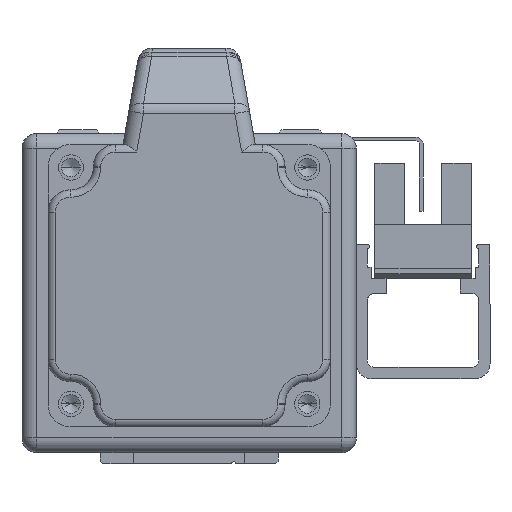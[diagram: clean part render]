
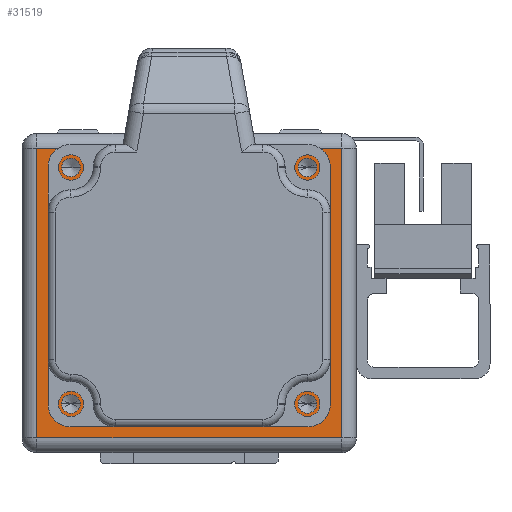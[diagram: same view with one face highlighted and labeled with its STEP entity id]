
A CAD part, left-side view. The second image highlights one B-rep face of the part: STEP entity #31519.
In plain terms, the highlighted planar face has unit normal (-1, 0, 0) as drawn and (0, 0, -1) by its records, which use the part's own axes.
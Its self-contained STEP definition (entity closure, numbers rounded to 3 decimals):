
#752 = DIRECTION ( 'NONE',  ( -1., 0., 0. ) ) ;
#785 = DIRECTION ( 'NONE',  ( 0., 0., -1. ) ) ;
#791 = CARTESIAN_POINT ( 'NONE',  ( 15.91, -14.91, 0. ) ) ;
#972 = VERTEX_POINT ( 'NONE', #24666 ) ;
#1001 = VERTEX_POINT ( 'NONE', #24303 ) ;
#1218 = DIRECTION ( 'NONE',  ( -1., 0., 0. ) ) ;
#1374 = DIRECTION ( 'NONE',  ( 0., 0., -1. ) ) ;
#1569 = CARTESIAN_POINT ( 'NONE',  ( 15.91, 16.91, 0. ) ) ;
#2149 = CARTESIAN_POINT ( 'NONE',  ( -17.16, 16.91, 0. ) ) ;
#2272 = VERTEX_POINT ( 'NONE', #13752 ) ;
#2422 = VERTEX_POINT ( 'NONE', #19946 ) ;
#2788 = VERTEX_POINT ( 'NONE', #14689 ) ;
#3261 = VERTEX_POINT ( 'NONE', #21715 ) ;
#3546 = EDGE_CURVE ( 'NONE', #972, #2788, #8075, .T. ) ;
#4017 = CIRCLE ( 'NONE', #15367, 1.25 ) ;
#4046 = DIRECTION ( 'NONE',  ( 1., 0., 0. ) ) ;
#4203 = DIRECTION ( 'NONE',  ( 0., 0., 1. ) ) ;
#4290 = EDGE_LOOP ( 'NONE', ( #18283, #18586 ) ) ;
#4352 = CARTESIAN_POINT ( 'NONE',  ( 17.16, -14.91, 0. ) ) ;
#4418 = FACE_OUTER_BOUND ( 'NONE', #6096, .T. ) ;
#4445 = VECTOR ( 'NONE', #31131, 1000. ) ;
#4454 = FACE_BOUND ( 'NONE', #4290, .T. ) ;
#4530 = LINE ( 'NONE', #31173, #4445 ) ;
#4573 = DIRECTION ( 'NONE',  ( 0., -1., 0. ) ) ;
#4577 = FACE_BOUND ( 'NONE', #5282, .T. ) ;
#4611 = FACE_BOUND ( 'NONE', #17382, .T. ) ;
#4638 = DIRECTION ( 'NONE',  ( 0., 0., 1. ) ) ;
#4640 = FACE_BOUND ( 'NONE', #15134, .T. ) ;
#4659 = CARTESIAN_POINT ( 'NONE',  ( 0., 1., 0. ) ) ;
#4766 = FACE_BOUND ( 'NONE', #26240, .T. ) ;
#4908 = CARTESIAN_POINT ( 'NONE',  ( 20.5, -21.5, 0. ) ) ;
#5282 = EDGE_LOOP ( 'NONE', ( #18013, #18256 ) ) ;
#5392 = VECTOR ( 'NONE', #4573, 1000. ) ;
#5517 = LINE ( 'NONE', #4908, #5392 ) ;
#5780 = DIRECTION ( 'NONE',  ( -1., 0., 0. ) ) ;
#5797 = EDGE_CURVE ( 'NONE', #1001, #14484, #22994, .T. ) ;
#5807 = DIRECTION ( 'NONE',  ( 0., 0., -1. ) ) ;
#5842 = CARTESIAN_POINT ( 'NONE',  ( 15.91, 16.91, 0. ) ) ;
#6096 = EDGE_LOOP ( 'NONE', ( #18866, #18954, #19105, #19134 ) ) ;
#6600 = DIRECTION ( 'NONE',  ( -1., 0., 0. ) ) ;
#6602 = DIRECTION ( 'NONE',  ( 0., 0., -1. ) ) ;
#6631 = CARTESIAN_POINT ( 'NONE',  ( 22.5, -21.5, 0. ) ) ;
#6633 = CARTESIAN_POINT ( 'NONE',  ( -15.91, -14.91, 0. ) ) ;
#7799 = VECTOR ( 'NONE', #26940, 1000. ) ;
#7972 = LINE ( 'NONE', #27618, #7799 ) ;
#8075 = CIRCLE ( 'NONE', #17415, 15.5 ) ;
#8111 = VERTEX_POINT ( 'NONE', #2149 ) ;
#10394 = CIRCLE ( 'NONE', #18615, 1.25 ) ;
#10477 = AXIS2_PLACEMENT_3D ( 'NONE', #6631, #4203, #22018 ) ;
#10574 = CIRCLE ( 'NONE', #18946, 15.5 ) ;
#10730 = EDGE_CURVE ( 'NONE', #2422, #2272, #30511, .T. ) ;
#11502 = DIRECTION ( 'NONE',  ( -1., 0., 0. ) ) ;
#11532 = DIRECTION ( 'NONE',  ( 0., 0., -1. ) ) ;
#11540 = CARTESIAN_POINT ( 'NONE',  ( -15.91, 16.91, 0. ) ) ;
#12073 = VERTEX_POINT ( 'NONE', #16274 ) ;
#12335 = EDGE_CURVE ( 'NONE', #8111, #13268, #18565, .T. ) ;
#12368 = DIRECTION ( 'NONE',  ( -1., 0., 0. ) ) ;
#12411 = DIRECTION ( 'NONE',  ( 0., 0., -1. ) ) ;
#12479 = CARTESIAN_POINT ( 'NONE',  ( -15.91, 16.91, 0. ) ) ;
#12598 = EDGE_CURVE ( 'NONE', #13257, #12073, #17329, .T. ) ;
#12675 = EDGE_CURVE ( 'NONE', #2272, #2422, #16901, .T. ) ;
#13029 = EDGE_CURVE ( 'NONE', #24412, #15048, #14820, .T. ) ;
#13148 = AXIS2_PLACEMENT_3D ( 'NONE', #15111, #15098, #15077 ) ;
#13257 = VERTEX_POINT ( 'NONE', #15778 ) ;
#13268 = VERTEX_POINT ( 'NONE', #17043 ) ;
#13752 = CARTESIAN_POINT ( 'NONE',  ( 17.16, 16.91, 0. ) ) ;
#13910 = EDGE_CURVE ( 'NONE', #2788, #972, #10574, .T. ) ;
#14020 = EDGE_CURVE ( 'NONE', #13268, #8111, #10394, .T. ) ;
#14484 = VERTEX_POINT ( 'NONE', #28270 ) ;
#14533 = EDGE_CURVE ( 'NONE', #14484, #29313, #7972, .T. ) ;
#14689 = CARTESIAN_POINT ( 'NONE',  ( 15.5, 1., 0. ) ) ;
#14820 = CIRCLE ( 'NONE', #20907, 1.25 ) ;
#15004 = EDGE_CURVE ( 'NONE', #29313, #3261, #5517, .T. ) ;
#15048 = VERTEX_POINT ( 'NONE', #4352 ) ;
#15077 = DIRECTION ( 'NONE',  ( -1., 0., 0. ) ) ;
#15098 = DIRECTION ( 'NONE',  ( 0., 0., -1. ) ) ;
#15111 = CARTESIAN_POINT ( 'NONE',  ( 15.91, -14.91, 0. ) ) ;
#15134 = EDGE_LOOP ( 'NONE', ( #17709, #17769 ) ) ;
#15158 = EDGE_CURVE ( 'NONE', #3261, #1001, #4530, .T. ) ;
#15296 = EDGE_CURVE ( 'NONE', #12073, #13257, #4017, .T. ) ;
#15367 = AXIS2_PLACEMENT_3D ( 'NONE', #29374, #29364, #29341 ) ;
#15778 = CARTESIAN_POINT ( 'NONE',  ( -17.16, -14.91, 0. ) ) ;
#16274 = CARTESIAN_POINT ( 'NONE',  ( -14.66, -14.91, 0. ) ) ;
#16373 = EDGE_CURVE ( 'NONE', #15048, #24412, #23646, .T. ) ;
#16901 = CIRCLE ( 'NONE', #21534, 1.25 ) ;
#17043 = CARTESIAN_POINT ( 'NONE',  ( -14.66, 16.91, 0. ) ) ;
#17329 = CIRCLE ( 'NONE', #21825, 1.25 ) ;
#17382 = EDGE_LOOP ( 'NONE', ( #18681, #18822 ) ) ;
#17415 = AXIS2_PLACEMENT_3D ( 'NONE', #4659, #4638, #4046 ) ;
#17709 = ORIENTED_EDGE ( 'NONE', *, *, #10730, .F. ) ;
#17769 = ORIENTED_EDGE ( 'NONE', *, *, #12675, .F. ) ;
#17832 = ORIENTED_EDGE ( 'NONE', *, *, #12335, .F. ) ;
#17989 = ORIENTED_EDGE ( 'NONE', *, *, #14020, .F. ) ;
#18013 = ORIENTED_EDGE ( 'NONE', *, *, #12598, .F. ) ;
#18038 = DIRECTION ( 'NONE',  ( 1., 0., 0. ) ) ;
#18081 = DIRECTION ( 'NONE',  ( 0., 0., 1. ) ) ;
#18116 = CARTESIAN_POINT ( 'NONE',  ( 0., 1., 0. ) ) ;
#18256 = ORIENTED_EDGE ( 'NONE', *, *, #15296, .F. ) ;
#18283 = ORIENTED_EDGE ( 'NONE', *, *, #13029, .F. ) ;
#18565 = CIRCLE ( 'NONE', #22203, 1.25 ) ;
#18586 = ORIENTED_EDGE ( 'NONE', *, *, #16373, .F. ) ;
#18615 = AXIS2_PLACEMENT_3D ( 'NONE', #12479, #12411, #12368 ) ;
#18681 = ORIENTED_EDGE ( 'NONE', *, *, #3546, .T. ) ;
#18822 = ORIENTED_EDGE ( 'NONE', *, *, #13910, .T. ) ;
#18866 = ORIENTED_EDGE ( 'NONE', *, *, #14533, .T. ) ;
#18946 = AXIS2_PLACEMENT_3D ( 'NONE', #18116, #18081, #18038 ) ;
#18954 = ORIENTED_EDGE ( 'NONE', *, *, #15004, .T. ) ;
#19105 = ORIENTED_EDGE ( 'NONE', *, *, #15158, .T. ) ;
#19134 = ORIENTED_EDGE ( 'NONE', *, *, #5797, .T. ) ;
#19587 = DIRECTION ( 'NONE',  ( 0., 1., 0. ) ) ;
#19946 = CARTESIAN_POINT ( 'NONE',  ( 14.66, 16.91, 0. ) ) ;
#20012 = CARTESIAN_POINT ( 'NONE',  ( 20.5, 19.5, 0. ) ) ;
#20472 = CARTESIAN_POINT ( 'NONE',  ( -20.5, -21.5, 0. ) ) ;
#20907 = AXIS2_PLACEMENT_3D ( 'NONE', #791, #785, #752 ) ;
#21534 = AXIS2_PLACEMENT_3D ( 'NONE', #5842, #5807, #5780 ) ;
#21715 = CARTESIAN_POINT ( 'NONE',  ( 20.5, -19.5, 0. ) ) ;
#21825 = AXIS2_PLACEMENT_3D ( 'NONE', #6633, #6602, #6600 ) ;
#22018 = DIRECTION ( 'NONE',  ( 1., 0., 0. ) ) ;
#22203 = AXIS2_PLACEMENT_3D ( 'NONE', #11540, #11532, #11502 ) ;
#22883 = VECTOR ( 'NONE', #19587, 1000. ) ;
#22994 = LINE ( 'NONE', #20472, #22883 ) ;
#23646 = CIRCLE ( 'NONE', #13148, 1.25 ) ;
#24303 = CARTESIAN_POINT ( 'NONE',  ( -20.5, -19.5, 0. ) ) ;
#24412 = VERTEX_POINT ( 'NONE', #28677 ) ;
#24666 = CARTESIAN_POINT ( 'NONE',  ( -15.5, 1., 0. ) ) ;
#25219 = AXIS2_PLACEMENT_3D ( 'NONE', #1569, #1374, #1218 ) ;
#26240 = EDGE_LOOP ( 'NONE', ( #17832, #17989 ) ) ;
#26940 = DIRECTION ( 'NONE',  ( 1., 0., 0. ) ) ;
#27618 = CARTESIAN_POINT ( 'NONE',  ( 22.5, 19.5, 0. ) ) ;
#28270 = CARTESIAN_POINT ( 'NONE',  ( -20.5, 19.5, 0. ) ) ;
#28677 = CARTESIAN_POINT ( 'NONE',  ( 14.66, -14.91, 0. ) ) ;
#28850 = PLANE ( 'NONE',  #10477 ) ;
#29313 = VERTEX_POINT ( 'NONE', #20012 ) ;
#29341 = DIRECTION ( 'NONE',  ( -1., 0., 0. ) ) ;
#29364 = DIRECTION ( 'NONE',  ( 0., 0., -1. ) ) ;
#29374 = CARTESIAN_POINT ( 'NONE',  ( -15.91, -14.91, 0. ) ) ;
#30511 = CIRCLE ( 'NONE', #25219, 1.25 ) ;
#31131 = DIRECTION ( 'NONE',  ( -1., 0., 0. ) ) ;
#31173 = CARTESIAN_POINT ( 'NONE',  ( 22.5, -19.5, 0. ) ) ;
#31519 = ADVANCED_FACE ( 'NONE', ( #4640, #4766, #4577, #4454, #4611, #4418 ), #28850, .F. ) ;
